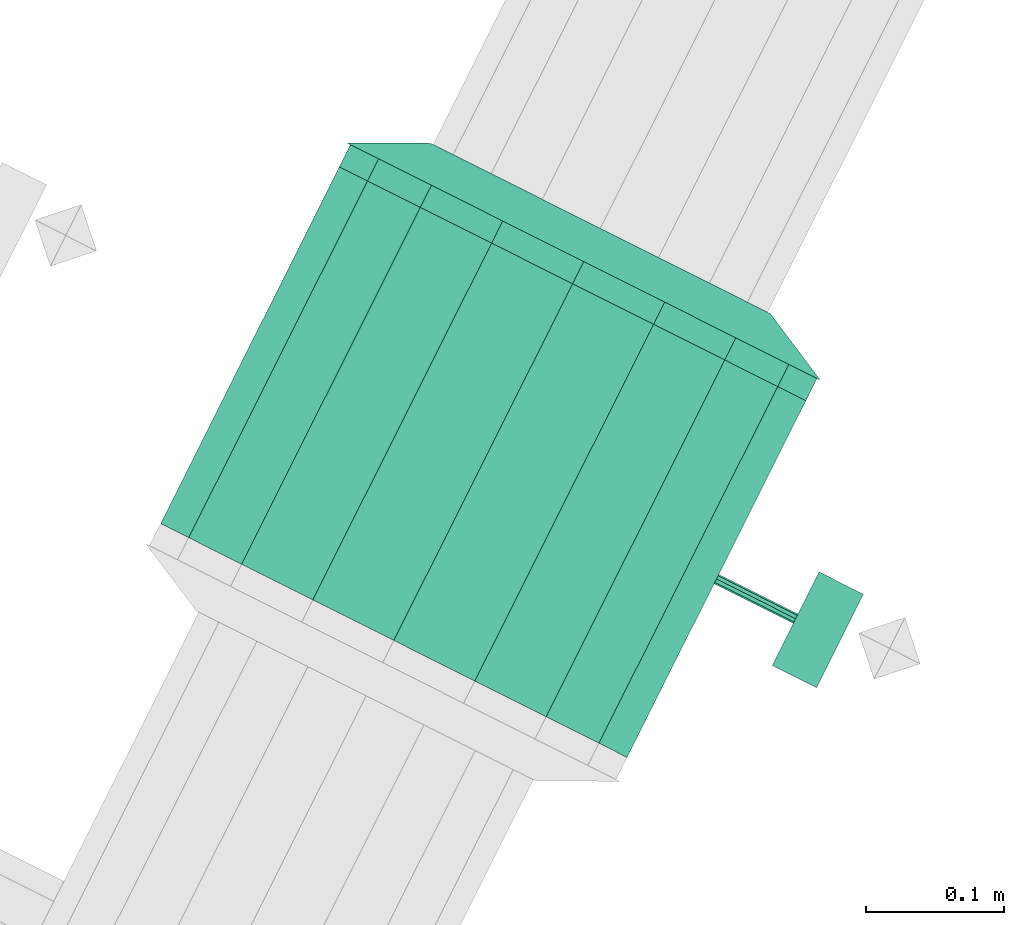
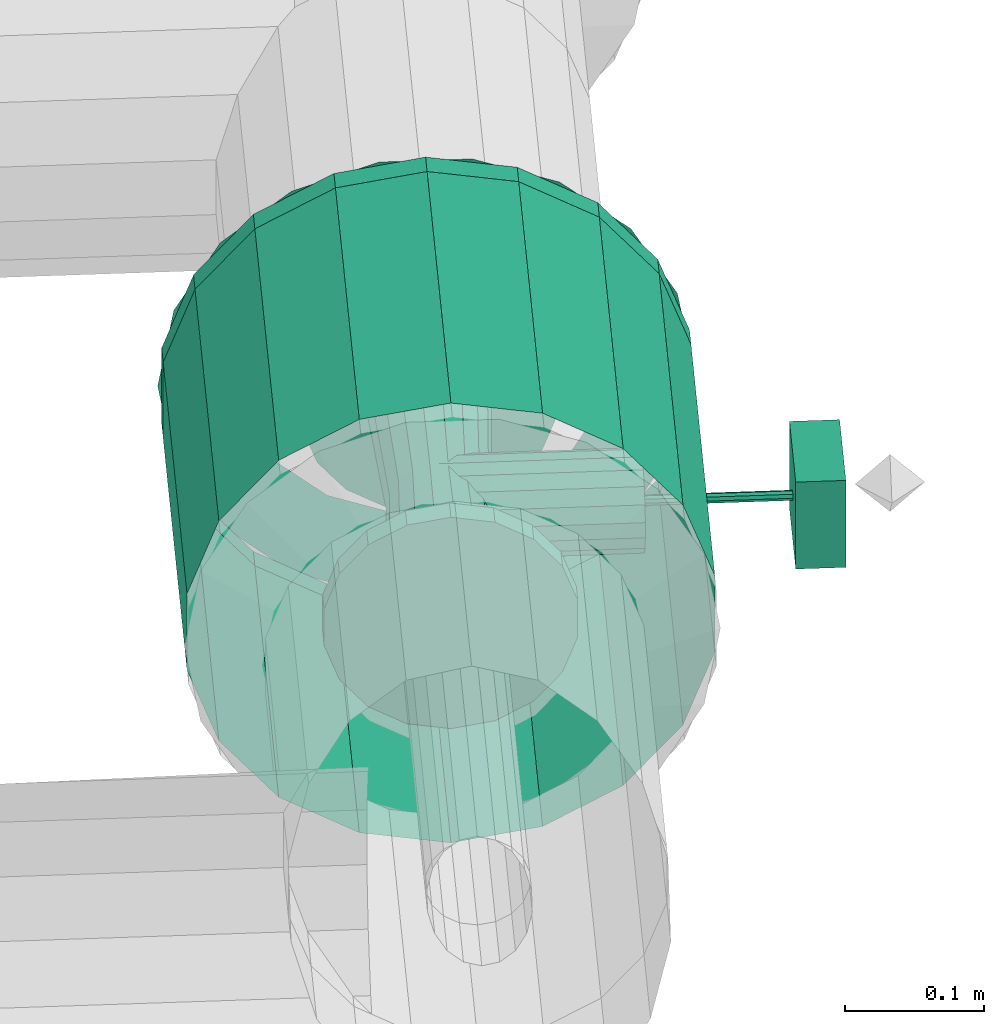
# One storey, part 39 of 152: 1 flow controller, 1 flow fitting.
"""IFC2X3 building model written with IfcOpenShell, lengths in metres."""

from ifc_helpers import new_model, si_unit, derived_unit, direction, frame, origin, place, context, subcontext, project, spatial, face_set, surface_model, source, transform, mapped, material, type_object, type_shapes, element, save


model = new_model("IFC2X3")

# Units and contexts
model_context = context("Model", 3, precision=5.2338327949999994e-05, world=origin(), true_north=direction((0.0, 1.0)))
body_context = subcontext(model_context, "Body", "Model", "MODEL_VIEW")
ifc_project = project(units=[si_unit("LENGTHUNIT", "METRE"), si_unit("AREAUNIT", "SQUARE_METRE"), si_unit("VOLUMEUNIT", "CUBIC_METRE"), si_unit("MASSUNIT", "GRAM", prefix="KILO"), si_unit("PLANEANGLEUNIT", "RADIAN"), derived_unit("THERMALTRANSMITTANCEUNIT", [(si_unit("MASSUNIT", "GRAM", prefix="KILO"), 1), (si_unit("THERMODYNAMICTEMPERATUREUNIT", "KELVIN"), -1), (si_unit("TIMEUNIT", "SECOND"), -3)])], contexts=[model_context])

# Site, building, storey
site_placement = place(None, frame((0.0, 0.0, 0.0), z_axis=(0.0, 0.0, 1.0), x_axis=(0.8939966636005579, -0.4480736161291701, 0.0)))
site = spatial("IfcSite", under=ifc_project, at=site_placement, Name="Default", CompositionType="ELEMENT")
building_placement = place(site_placement, origin())
building = spatial("IfcBuilding", under=site, at=building_placement, CompositionType="ELEMENT")
storey_placement = place(building_placement, frame((0.0, 0.0, 2.7499999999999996)))
storey = spatial("IfcBuildingStorey", under=building, at=storey_placement, Name="1. Obergeschoss", CompositionType="ELEMENT", Elevation=2.7499999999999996)

# Flow controller
ifc_material = material(Name="IfcSurfaceStyle #1741")
distribution_element_type_1 = type_object("IfcDistributionElementType", Name="Ventil:Ventil", material=ifc_material)
shared_shape_1 = source(origin(), body_context, "Body", "SurfaceModel", [
    surface_model("IfcFaceBasedSurfaceModel", [(15.31124256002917, 6.972544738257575, 5.597590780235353), (15.31124256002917, 6.896444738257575, 5.597590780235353), (15.31124256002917, 6.896444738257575, 5.673690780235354), (15.31124256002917, 6.972544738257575, 5.673690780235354), (15.347242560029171, 6.896444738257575, 5.673690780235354), (15.347242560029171, 6.972544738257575, 5.673690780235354), (15.347242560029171, 6.896444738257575, 5.597590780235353), (15.347242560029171, 6.972544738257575, 5.597590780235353), (15.057242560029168, 7.079494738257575, 5.728140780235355), (15.025605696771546, 7.079494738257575, 5.722562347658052), (15.025605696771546, 7.061494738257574, 5.722562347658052), (15.057242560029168, 7.061494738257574, 5.728140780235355), (14.997784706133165, 7.079494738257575, 5.706499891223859), (14.997784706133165, 7.061494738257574, 5.706499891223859), (14.977135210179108, 7.079494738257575, 5.681890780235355), (14.977135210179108, 7.061494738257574, 5.681890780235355), (14.96614784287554, 7.079494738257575, 5.651703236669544), (14.96614784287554, 7.061494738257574, 5.651703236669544), (14.966147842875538, 7.079494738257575, 5.619578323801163), (14.966147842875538, 7.061494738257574, 5.619578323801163), (14.977135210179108, 7.079494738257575, 5.5893907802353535), (14.977135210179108, 7.061494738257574, 5.5893907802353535), (14.997784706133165, 7.079494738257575, 5.564781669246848), (14.997784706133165, 7.061494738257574, 5.564781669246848), (15.025605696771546, 7.079494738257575, 5.548719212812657), (15.025605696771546, 7.061494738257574, 5.548719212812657), (15.057242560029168, 7.079494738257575, 5.543140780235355), (15.057242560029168, 7.061494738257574, 5.543140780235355), (15.088879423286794, 7.079494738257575, 5.548719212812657), (15.088879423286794, 7.061494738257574, 5.548719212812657), (15.116700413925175, 7.079494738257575, 5.564781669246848), (15.116700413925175, 7.061494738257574, 5.564781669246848), (15.13734990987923, 7.079494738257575, 5.5893907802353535), (15.13734990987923, 7.061494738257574, 5.5893907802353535), (15.148337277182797, 7.079494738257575, 5.619578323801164), (15.148337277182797, 7.061494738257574, 5.619578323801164), (15.1483372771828, 7.079494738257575, 5.651703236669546), (15.1483372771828, 7.061494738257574, 5.651703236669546), (15.13734990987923, 7.079494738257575, 5.681890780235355), (15.13734990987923, 7.061494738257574, 5.681890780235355), (15.116700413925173, 7.079494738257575, 5.706499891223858), (15.116700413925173, 7.061494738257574, 5.706499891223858), (15.088879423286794, 7.079494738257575, 5.722562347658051), (15.088879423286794, 7.061494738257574, 5.722562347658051), (15.057242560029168, 7.079494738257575, 5.635640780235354), (15.057242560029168, 7.061494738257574, 5.635640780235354), (15.012242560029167, 7.061494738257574, 5.635640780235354), (15.0149563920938, 7.061494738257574, 5.620249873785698), (15.021487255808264, 6.934494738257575, 5.622626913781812), (15.019192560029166, 6.934494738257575, 5.635640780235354), (15.022770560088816, 7.061494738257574, 5.606715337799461), (15.028094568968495, 6.934494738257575, 5.611182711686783), (15.03474256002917, 7.061494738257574, 5.596669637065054), (15.03821756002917, 6.934494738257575, 5.602688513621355), (15.049428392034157, 7.061494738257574, 5.591324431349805), (15.050635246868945, 6.934494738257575, 5.598168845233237), (15.065056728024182, 7.061494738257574, 5.591324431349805), (15.063849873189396, 6.934494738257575, 5.598168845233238), (15.079742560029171, 7.061494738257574, 5.596669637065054), (15.07626756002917, 6.934494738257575, 5.602688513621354), (15.091714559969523, 7.061494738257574, 5.606715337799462), (15.086390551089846, 6.934494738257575, 5.611182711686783), (15.099528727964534, 7.061494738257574, 5.620249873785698), (15.092997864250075, 6.934494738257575, 5.622626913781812), (15.10224256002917, 7.061494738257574, 5.635640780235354), (15.095292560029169, 6.934494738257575, 5.635640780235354), (15.099528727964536, 7.061494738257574, 5.651031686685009), (15.092997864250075, 6.934494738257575, 5.648654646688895), (15.091714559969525, 7.061494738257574, 5.664566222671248), (15.086390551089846, 6.934494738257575, 5.660098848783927), (15.079742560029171, 7.061494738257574, 5.674611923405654), (15.07626756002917, 6.934494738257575, 5.668593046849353), (15.065056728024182, 7.061494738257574, 5.679957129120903), (15.063849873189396, 6.934494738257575, 5.673112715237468), (15.049428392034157, 7.061494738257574, 5.679957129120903), (15.050635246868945, 6.934494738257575, 5.673112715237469), (15.03474256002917, 7.061494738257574, 5.674611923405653), (15.03821756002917, 6.934494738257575, 5.668593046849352), (15.022770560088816, 7.061494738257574, 5.664566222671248), (15.028094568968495, 6.934494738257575, 5.660098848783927), (15.014956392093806, 7.061494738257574, 5.651031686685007), (15.021487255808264, 6.934494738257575, 5.648654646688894), (15.014956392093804, 6.807494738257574, 5.620249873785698), (15.012242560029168, 6.807494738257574, 5.635640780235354), (15.022770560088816, 6.807494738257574, 5.606715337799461), (15.03474256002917, 6.807494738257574, 5.5966696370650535), (15.049428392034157, 6.807494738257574, 5.591324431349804), (15.06505672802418, 6.807494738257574, 5.591324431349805), (15.079742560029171, 6.807494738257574, 5.596669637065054), (15.091714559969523, 6.807494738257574, 5.606715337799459), (15.099528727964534, 6.807494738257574, 5.620249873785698), (15.102242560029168, 6.807494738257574, 5.635640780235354), (15.099528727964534, 6.807494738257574, 5.651031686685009), (15.091714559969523, 6.807494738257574, 5.664566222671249), (15.079742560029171, 6.807494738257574, 5.674611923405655), (15.06505672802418, 6.807494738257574, 5.679957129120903), (15.049428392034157, 6.807494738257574, 5.679957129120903), (15.03474256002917, 6.807494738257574, 5.674611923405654), (15.022770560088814, 6.807494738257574, 5.664566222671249), (15.014956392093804, 6.807494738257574, 5.651031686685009), (15.057242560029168, 6.807494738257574, 5.728140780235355), (15.025605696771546, 6.807494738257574, 5.722562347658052), (15.025605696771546, 6.7894947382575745, 5.722562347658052), (15.057242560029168, 6.7894947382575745, 5.728140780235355), (14.997784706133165, 6.807494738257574, 5.706499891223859), (14.997784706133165, 6.7894947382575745, 5.706499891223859), (14.977135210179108, 6.807494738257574, 5.681890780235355), (14.977135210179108, 6.7894947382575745, 5.681890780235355), (14.96614784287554, 6.807494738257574, 5.651703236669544), (14.96614784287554, 6.7894947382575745, 5.651703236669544), (14.966147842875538, 6.807494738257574, 5.619578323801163), (14.966147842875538, 6.7894947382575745, 5.619578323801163), (14.977135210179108, 6.807494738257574, 5.5893907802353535), (14.977135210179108, 6.7894947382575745, 5.5893907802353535), (14.997784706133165, 6.807494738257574, 5.564781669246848), (14.997784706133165, 6.7894947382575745, 5.564781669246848), (15.025605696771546, 6.807494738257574, 5.548719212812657), (15.025605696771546, 6.7894947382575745, 5.548719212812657), (15.057242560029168, 6.807494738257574, 5.543140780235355), (15.057242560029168, 6.7894947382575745, 5.543140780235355), (15.088879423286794, 6.807494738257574, 5.548719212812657), (15.088879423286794, 6.7894947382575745, 5.548719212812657), (15.116700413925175, 6.807494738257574, 5.564781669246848), (15.116700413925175, 6.7894947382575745, 5.564781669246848), (15.13734990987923, 6.807494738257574, 5.5893907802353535), (15.13734990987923, 6.7894947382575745, 5.5893907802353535), (15.148337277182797, 6.807494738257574, 5.619578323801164), (15.148337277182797, 6.7894947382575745, 5.619578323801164), (15.1483372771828, 6.807494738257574, 5.651703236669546), (15.1483372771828, 6.7894947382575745, 5.651703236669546), (15.13734990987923, 6.807494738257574, 5.681890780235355), (15.13734990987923, 6.7894947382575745, 5.681890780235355), (15.116700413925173, 6.807494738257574, 5.706499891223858), (15.116700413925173, 6.7894947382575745, 5.706499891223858), (15.088879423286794, 6.807494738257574, 5.722562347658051), (15.088879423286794, 6.7894947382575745, 5.722562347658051), (15.057242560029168, 6.807494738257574, 5.635640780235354), (15.057242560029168, 6.7894947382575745, 5.635640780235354), (15.057242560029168, 6.934494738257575, 5.673690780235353), (15.057242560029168, 6.921480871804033, 5.671396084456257), (15.203267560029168, 6.921480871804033, 5.671396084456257), (15.203267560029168, 6.934494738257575, 5.673690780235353), (15.057242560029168, 6.910036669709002, 5.66478877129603), (15.203267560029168, 6.910036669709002, 5.66478877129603), (15.057242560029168, 6.901542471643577, 5.654665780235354), (15.203267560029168, 6.901542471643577, 5.654665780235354), (15.057242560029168, 6.897022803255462, 5.6422480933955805), (15.203267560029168, 6.897022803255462, 5.6422480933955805), (15.057242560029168, 6.897022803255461, 5.629033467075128), (15.203267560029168, 6.897022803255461, 5.629033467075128), (15.057242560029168, 6.901542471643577, 5.616615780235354), (15.203267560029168, 6.901542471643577, 5.616615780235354), (15.057242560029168, 6.910036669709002, 5.606492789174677), (15.203267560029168, 6.910036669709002, 5.606492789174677), (15.057242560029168, 6.921480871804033, 5.5998854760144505), (15.203267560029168, 6.921480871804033, 5.5998854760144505), (15.057242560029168, 6.934494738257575, 5.597590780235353), (15.203267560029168, 6.934494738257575, 5.597590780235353), (15.057242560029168, 6.947508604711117, 5.5998854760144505), (15.203267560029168, 6.947508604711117, 5.5998854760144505), (15.057242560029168, 6.958952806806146, 5.606492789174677), (15.203267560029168, 6.958952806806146, 5.606492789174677), (15.057242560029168, 6.967447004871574, 5.616615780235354), (15.203267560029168, 6.967447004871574, 5.616615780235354), (15.057242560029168, 6.971966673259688, 5.629033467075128), (15.203267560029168, 6.971966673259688, 5.629033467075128), (15.057242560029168, 6.971966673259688, 5.6422480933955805), (15.203267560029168, 6.971966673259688, 5.6422480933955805), (15.057242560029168, 6.967447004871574, 5.654665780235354), (15.203267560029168, 6.967447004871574, 5.654665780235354), (15.057242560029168, 6.958952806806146, 5.66478877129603), (15.203267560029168, 6.958952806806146, 5.66478877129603), (15.057242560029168, 6.947508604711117, 5.671396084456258), (15.203267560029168, 6.947508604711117, 5.671396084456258), (15.057242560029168, 6.934494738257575, 5.635640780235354), (15.203267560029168, 6.934494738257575, 5.635640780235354), (15.203267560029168, 6.934494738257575, 5.639445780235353), (15.203267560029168, 6.9318041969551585, 5.638331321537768), (15.31124256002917, 6.9318041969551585, 5.638331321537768), (15.31124256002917, 6.934494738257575, 5.639445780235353), (15.203267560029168, 6.930689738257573, 5.635640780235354), (15.31124256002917, 6.930689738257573, 5.635640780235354), (15.203267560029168, 6.9318041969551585, 5.63295023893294), (15.31124256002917, 6.9318041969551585, 5.63295023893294), (15.203267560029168, 6.934494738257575, 5.631835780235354), (15.31124256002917, 6.934494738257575, 5.631835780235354), (15.203267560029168, 6.937185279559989, 5.63295023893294), (15.31124256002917, 6.937185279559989, 5.63295023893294), (15.203267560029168, 6.938299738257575, 5.635640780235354), (15.31124256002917, 6.938299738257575, 5.635640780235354), (15.203267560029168, 6.937185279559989, 5.638331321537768), (15.31124256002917, 6.937185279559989, 5.638331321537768), (15.311242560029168, 6.934494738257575, 5.635640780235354), (15.057242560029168, 7.079494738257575, 5.828140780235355), (14.991403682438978, 7.079494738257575, 5.816531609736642), (14.991403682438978, 6.7894947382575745, 5.816531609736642), (15.057242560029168, 6.7894947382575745, 5.828140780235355), (14.93350594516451, 7.079494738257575, 5.783104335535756), (14.93350594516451, 6.7894947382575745, 5.783104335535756), (14.890532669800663, 7.079494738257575, 5.731890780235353), (14.890532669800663, 6.7894947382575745, 5.731890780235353), (14.867667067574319, 7.079494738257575, 5.669068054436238), (14.867667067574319, 6.7894947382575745, 5.669068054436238), (14.86766706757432, 7.079494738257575, 5.602213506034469), (14.86766706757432, 6.7894947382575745, 5.602213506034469), (14.890532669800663, 7.079494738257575, 5.539390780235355), (14.890532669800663, 6.7894947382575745, 5.539390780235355), (14.93350594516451, 7.079494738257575, 5.488177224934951), (14.93350594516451, 6.7894947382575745, 5.488177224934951), (14.991403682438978, 7.079494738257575, 5.454749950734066), (14.991403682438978, 6.7894947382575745, 5.454749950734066), (15.057242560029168, 7.079494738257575, 5.443140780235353), (15.057242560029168, 6.7894947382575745, 5.443140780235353), (15.12308143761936, 7.079494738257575, 5.454749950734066), (15.12308143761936, 6.7894947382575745, 5.454749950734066), (15.18097917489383, 7.079494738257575, 5.488177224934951), (15.18097917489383, 6.7894947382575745, 5.488177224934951), (15.223952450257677, 7.079494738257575, 5.539390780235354), (15.223952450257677, 6.7894947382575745, 5.539390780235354), (15.24681805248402, 7.079494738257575, 5.602213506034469), (15.24681805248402, 6.7894947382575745, 5.602213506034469), (15.24681805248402, 7.079494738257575, 5.669068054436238), (15.24681805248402, 6.7894947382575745, 5.669068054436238), (15.223952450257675, 7.079494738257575, 5.731890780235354), (15.223952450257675, 6.7894947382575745, 5.731890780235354), (15.18097917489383, 7.079494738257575, 5.783104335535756), (15.18097917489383, 6.7894947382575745, 5.783104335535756), (15.12308143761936, 7.079494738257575, 5.816531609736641), (15.12308143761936, 6.7894947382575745, 5.816531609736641)], [face_set([[[0, 1, 2, 3]], [[3, 2, 4, 5]], [[5, 4, 6, 7]], [[7, 6, 1, 0]], [[0, 3, 5, 7]], [[6, 4, 2, 1]], [[8, 9, 10, 11]], [[9, 12, 13, 10]], [[12, 14, 15, 13]], [[14, 16, 17, 15]], [[16, 18, 19, 17]], [[18, 20, 21, 19]], [[20, 22, 23, 21]], [[22, 24, 25, 23]], [[24, 26, 27, 25]], [[26, 28, 29, 27]], [[28, 30, 31, 29]], [[30, 32, 33, 31]], [[32, 34, 35, 33]], [[34, 36, 37, 35]], [[36, 38, 39, 37]], [[38, 40, 41, 39]], [[40, 42, 43, 41]], [[42, 8, 11, 43]], [[44, 9, 8]], [[44, 12, 9]], [[44, 14, 12]], [[44, 16, 14]], [[44, 18, 16]], [[44, 20, 18]], [[44, 22, 20]], [[44, 24, 22]], [[44, 26, 24]], [[44, 28, 26]], [[44, 30, 28]], [[44, 32, 30]], [[44, 34, 32]], [[44, 36, 34]], [[44, 38, 36]], [[44, 40, 38]], [[44, 42, 40]], [[44, 8, 42]], [[45, 43, 11]], [[45, 41, 43]], [[45, 39, 41]], [[45, 37, 39]], [[45, 35, 37]], [[45, 33, 35]], [[45, 31, 33]], [[45, 29, 31]], [[45, 27, 29]], [[45, 25, 27]], [[45, 23, 25]], [[45, 21, 23]], [[45, 19, 21]], [[45, 17, 19]], [[45, 15, 17]], [[45, 13, 15]], [[45, 10, 13]], [[45, 11, 10]], [[46, 47, 48, 49]], [[47, 50, 51, 48]], [[50, 52, 53, 51]], [[52, 54, 55, 53]], [[54, 56, 57, 55]], [[56, 58, 59, 57]], [[58, 60, 61, 59]], [[60, 62, 63, 61]], [[62, 64, 65, 63]], [[64, 66, 67, 65]], [[66, 68, 69, 67]], [[68, 70, 71, 69]], [[70, 72, 73, 71]], [[72, 74, 75, 73]], [[74, 76, 77, 75]], [[76, 78, 79, 77]], [[78, 80, 81, 79]], [[80, 46, 49, 81]], [[49, 48, 82, 83]], [[48, 51, 84, 82]], [[51, 53, 85, 84]], [[53, 55, 86, 85]], [[55, 57, 87, 86]], [[57, 59, 88, 87]], [[59, 61, 89, 88]], [[61, 63, 90, 89]], [[63, 65, 91, 90]], [[65, 67, 92, 91]], [[67, 69, 93, 92]], [[69, 71, 94, 93]], [[71, 73, 95, 94]], [[73, 75, 96, 95]], [[75, 77, 97, 96]], [[77, 79, 98, 97]], [[79, 81, 99, 98]], [[81, 49, 83, 99]], [[100, 101, 102, 103]], [[101, 104, 105, 102]], [[104, 106, 107, 105]], [[106, 108, 109, 107]], [[108, 110, 111, 109]], [[110, 112, 113, 111]], [[112, 114, 115, 113]], [[114, 116, 117, 115]], [[116, 118, 119, 117]], [[118, 120, 121, 119]], [[120, 122, 123, 121]], [[122, 124, 125, 123]], [[124, 126, 127, 125]], [[126, 128, 129, 127]], [[128, 130, 131, 129]], [[130, 132, 133, 131]], [[132, 134, 135, 133]], [[134, 100, 103, 135]], [[136, 101, 100]], [[136, 104, 101]], [[136, 106, 104]], [[136, 108, 106]], [[136, 110, 108]], [[136, 112, 110]], [[136, 114, 112]], [[136, 116, 114]], [[136, 118, 116]], [[136, 120, 118]], [[136, 122, 120]], [[136, 124, 122]], [[136, 126, 124]], [[136, 128, 126]], [[136, 130, 128]], [[136, 132, 130]], [[136, 134, 132]], [[136, 100, 134]], [[137, 135, 103]], [[137, 133, 135]], [[137, 131, 133]], [[137, 129, 131]], [[137, 127, 129]], [[137, 125, 127]], [[137, 123, 125]], [[137, 121, 123]], [[137, 119, 121]], [[137, 117, 119]], [[137, 115, 117]], [[137, 113, 115]], [[137, 111, 113]], [[137, 109, 111]], [[137, 107, 109]], [[137, 105, 107]], [[137, 102, 105]], [[137, 103, 102]], [[138, 139, 140, 141]], [[139, 142, 143, 140]], [[142, 144, 145, 143]], [[144, 146, 147, 145]], [[146, 148, 149, 147]], [[148, 150, 151, 149]], [[150, 152, 153, 151]], [[152, 154, 155, 153]], [[154, 156, 157, 155]], [[156, 158, 159, 157]], [[158, 160, 161, 159]], [[160, 162, 163, 161]], [[162, 164, 165, 163]], [[164, 166, 167, 165]], [[166, 168, 169, 167]], [[168, 170, 171, 169]], [[170, 172, 173, 171]], [[172, 138, 141, 173]], [[174, 139, 138]], [[174, 142, 139]], [[174, 144, 142]], [[174, 146, 144]], [[174, 148, 146]], [[174, 150, 148]], [[174, 152, 150]], [[174, 154, 152]], [[174, 156, 154]], [[174, 158, 156]], [[174, 160, 158]], [[174, 162, 160]], [[174, 164, 162]], [[174, 166, 164]], [[174, 168, 166]], [[174, 170, 168]], [[174, 172, 170]], [[174, 138, 172]], [[175, 173, 141]], [[175, 171, 173]], [[175, 169, 171]], [[175, 167, 169]], [[175, 165, 167]], [[175, 163, 165]], [[175, 161, 163]], [[175, 159, 161]], [[175, 157, 159]], [[175, 155, 157]], [[175, 153, 155]], [[175, 151, 153]], [[175, 149, 151]], [[175, 147, 149]], [[175, 145, 147]], [[175, 143, 145]], [[175, 140, 143]], [[175, 141, 140]], [[176, 177, 178, 179]], [[177, 180, 181, 178]], [[180, 182, 183, 181]], [[182, 184, 185, 183]], [[184, 186, 187, 185]], [[186, 188, 189, 187]], [[188, 190, 191, 189]], [[190, 176, 179, 191]], [[192, 191, 179]], [[192, 189, 191]], [[192, 187, 189]], [[192, 185, 187]], [[192, 183, 185]], [[192, 181, 183]], [[192, 178, 181]], [[192, 179, 178]], [[193, 194, 195, 196]], [[194, 197, 198, 195]], [[197, 199, 200, 198]], [[199, 201, 202, 200]], [[201, 203, 204, 202]], [[203, 205, 206, 204]], [[205, 207, 208, 206]], [[207, 209, 210, 208]], [[209, 211, 212, 210]], [[211, 213, 214, 212]], [[213, 215, 216, 214]], [[215, 217, 218, 216]], [[217, 219, 220, 218]], [[219, 221, 222, 220]], [[221, 223, 224, 222]], [[223, 225, 226, 224]], [[225, 227, 228, 226]], [[227, 193, 196, 228]]])]),
])
type_shapes(distribution_element_type_1, [shared_shape_1])
flow_controller_placement = place(storey_placement, frame((0.0, 0.0, -2.7499999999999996)))
element("IfcFlowController", 1, at=flow_controller_placement, inside=storey, type_object=distribution_element_type_1, material=ifc_material, Name="Ventil", ObjectType="Ventil", context=body_context, shape_type="MappedRepresentation", body=[
    mapped(shared_shape_1, transform((0.0, 0.0, 0.0), scale=1.0)),
])

# Flow fitting
distribution_element_type_2 = type_object("IfcDistributionElementType", Name="Flansch 256500:Flansch 256500", material=ifc_material)
shared_shape_2 = source(origin(), body_context, "Body", "SurfaceModel", [
    surface_model("IfcFaceBasedSurfaceModel", [(15.095292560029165, 7.124494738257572, 5.635640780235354), (15.092997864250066, 7.124494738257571, 5.648654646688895), (15.099528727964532, 7.0974947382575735, 5.65103168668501), (15.102242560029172, 7.097494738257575, 5.635640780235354), (15.086390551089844, 7.124494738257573, 5.6600988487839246), (15.091714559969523, 7.097494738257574, 5.664566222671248), (15.076267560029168, 7.124494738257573, 5.668593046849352), (15.079742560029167, 7.0974947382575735, 5.674611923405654), (15.063849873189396, 7.1244947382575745, 5.673112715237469), (15.065056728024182, 7.097494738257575, 5.679957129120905), (15.050635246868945, 7.124494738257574, 5.673112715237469), (15.049428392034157, 7.097494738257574, 5.679957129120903), (15.03821756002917, 7.124494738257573, 5.668593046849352), (15.034742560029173, 7.097494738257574, 5.674611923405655), (15.028094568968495, 7.124494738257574, 5.660098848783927), (15.022770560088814, 7.097494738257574, 5.664566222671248), (15.021487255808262, 7.124494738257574, 5.648654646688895), (15.0149563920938, 7.097494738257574, 5.65103168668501), (15.019192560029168, 7.124494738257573, 5.635640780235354), (15.01224256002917, 7.097494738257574, 5.635640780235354), (15.021487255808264, 7.124494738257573, 5.6226269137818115), (15.014956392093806, 7.097494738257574, 5.620249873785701), (15.028094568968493, 7.124494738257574, 5.611182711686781), (15.022770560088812, 7.097494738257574, 5.606715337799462), (15.038217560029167, 7.1244947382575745, 5.602688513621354), (15.03474256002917, 7.097494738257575, 5.5966696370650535), (15.050635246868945, 7.124494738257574, 5.59816884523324), (15.049428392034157, 7.097494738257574, 5.591324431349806), (15.063849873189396, 7.124494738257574, 5.598168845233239), (15.06505672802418, 7.097494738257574, 5.591324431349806), (15.07626756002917, 7.124494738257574, 5.602688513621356), (15.079742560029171, 7.097494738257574, 5.596669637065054), (15.086390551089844, 7.124494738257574, 5.61118271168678), (15.091714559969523, 7.097494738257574, 5.606715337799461), (15.092997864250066, 7.124494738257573, 5.622626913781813), (15.099528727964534, 7.097494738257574, 5.6202498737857), (15.057242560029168, 7.097494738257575, 5.543140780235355), (15.088879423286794, 7.097494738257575, 5.548719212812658), (15.088879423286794, 7.079494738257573, 5.548719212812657), (15.057242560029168, 7.079494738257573, 5.543140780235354), (15.116700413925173, 7.0974947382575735, 5.564781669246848), (15.116700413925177, 7.079494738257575, 5.56478166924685), (15.137349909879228, 7.0974947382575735, 5.589390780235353), (15.137349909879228, 7.079494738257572, 5.589390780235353), (15.148337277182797, 7.097494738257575, 5.619578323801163), (15.148337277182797, 7.079494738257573, 5.619578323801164), (15.1483372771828, 7.0974947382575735, 5.651703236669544), (15.148337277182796, 7.079494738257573, 5.651703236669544), (15.137349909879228, 7.0974947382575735, 5.681890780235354), (15.137349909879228, 7.079494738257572, 5.681890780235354), (15.11670041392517, 7.0974947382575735, 5.706499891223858), (15.116700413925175, 7.079494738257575, 5.706499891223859), (15.088879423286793, 7.097494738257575, 5.722562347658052), (15.088879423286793, 7.079494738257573, 5.722562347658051), (15.057242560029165, 7.097494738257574, 5.7281407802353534), (15.057242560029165, 7.079494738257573, 5.7281407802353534), (15.02560569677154, 7.0974947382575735, 5.722562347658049), (15.025605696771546, 7.079494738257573, 5.7225623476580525), (14.997784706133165, 7.0974947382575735, 5.706499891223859), (14.997784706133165, 7.079494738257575, 5.70649989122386), (14.977135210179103, 7.0974947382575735, 5.681890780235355), (14.977135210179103, 7.079494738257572, 5.681890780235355), (14.966147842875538, 7.0974947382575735, 5.651703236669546), (14.966147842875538, 7.0794947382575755, 5.651703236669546), (14.96614784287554, 7.097494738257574, 5.619578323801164), (14.966147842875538, 7.079494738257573, 5.619578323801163), (14.977135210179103, 7.0974947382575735, 5.589390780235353), (14.977135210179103, 7.079494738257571, 5.589390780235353), (14.997784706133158, 7.0974947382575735, 5.564781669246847), (14.997784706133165, 7.079494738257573, 5.564781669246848), (15.025605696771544, 7.0974947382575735, 5.548719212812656), (15.025605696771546, 7.079494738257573, 5.548719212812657), (15.057242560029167, 7.0974947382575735, 5.635640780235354), (15.195292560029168, 7.124494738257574, 5.635640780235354), (15.186967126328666, 7.124494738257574, 5.6828566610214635), (15.238133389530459, 7.097494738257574, 5.701479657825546), (15.249742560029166, 7.097494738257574, 5.635640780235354), (15.16299499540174, 7.124494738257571, 5.7243776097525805), (15.20470611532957, 7.097494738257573, 5.759377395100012), (15.126267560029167, 7.124494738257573, 5.755195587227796), (15.153492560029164, 7.097494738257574, 5.8023506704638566), (15.081214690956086, 7.1244947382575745, 5.771593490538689), (15.090669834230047, 7.097494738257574, 5.825216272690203), (15.033270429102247, 7.124494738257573, 5.771593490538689), (15.023815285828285, 7.0974947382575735, 5.825216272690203), (14.988217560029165, 7.124494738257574, 5.755195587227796), (14.960992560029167, 7.097494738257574, 5.802350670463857), (14.951490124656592, 7.124494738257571, 5.724377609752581), (14.909779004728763, 7.0974947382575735, 5.759377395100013), (14.927517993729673, 7.124494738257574, 5.6828566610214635), (14.876351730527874, 7.097494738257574, 5.701479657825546), (14.91919256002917, 7.124494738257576, 5.635640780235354), (14.86474256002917, 7.097494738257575, 5.635640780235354), (14.927517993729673, 7.124494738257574, 5.588424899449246), (14.87635173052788, 7.0974947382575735, 5.569801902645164), (14.951490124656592, 7.124494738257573, 5.546903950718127), (14.90977900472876, 7.097494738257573, 5.511904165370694), (14.988217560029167, 7.124494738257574, 5.5160859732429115), (14.960992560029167, 7.097494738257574, 5.468930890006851), (15.033270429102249, 7.124494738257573, 5.499688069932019), (15.023815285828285, 7.0974947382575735, 5.446065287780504), (15.08121469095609, 7.124494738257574, 5.499688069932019), (15.090669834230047, 7.0974947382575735, 5.446065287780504), (15.126267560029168, 7.124494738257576, 5.5160859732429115), (15.153492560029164, 7.097494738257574, 5.468930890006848), (15.16299499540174, 7.124494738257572, 5.546903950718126), (15.204706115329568, 7.0974947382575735, 5.511904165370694), (15.186967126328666, 7.124494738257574, 5.588424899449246), (15.238133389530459, 7.097494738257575, 5.569801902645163), (15.057242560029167, 7.0974947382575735, 5.443140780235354), (15.12308143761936, 7.097494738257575, 5.454749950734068), (15.12308143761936, 7.079494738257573, 5.454749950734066), (15.057242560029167, 7.079494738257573, 5.443140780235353), (15.180979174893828, 7.0974947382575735, 5.488177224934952), (15.18097917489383, 7.079494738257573, 5.488177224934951), (15.223952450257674, 7.097494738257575, 5.539390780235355), (15.223952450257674, 7.079494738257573, 5.539390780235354), (15.246818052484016, 7.0974947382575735, 5.602213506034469), (15.246818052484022, 7.079494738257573, 5.602213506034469), (15.24681805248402, 7.0974947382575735, 5.669068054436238), (15.246818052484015, 7.079494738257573, 5.669068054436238), (15.22395245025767, 7.0974947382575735, 5.731890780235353), (15.22395245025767, 7.079494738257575, 5.731890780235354), (15.180979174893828, 7.097494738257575, 5.783104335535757), (15.180979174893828, 7.079494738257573, 5.783104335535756), (15.12308143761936, 7.0974947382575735, 5.816531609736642), (15.12308143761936, 7.079494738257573, 5.816531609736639), (15.057242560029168, 7.097494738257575, 5.828140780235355), (15.057242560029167, 7.079494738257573, 5.828140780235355), (14.991403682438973, 7.0974947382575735, 5.816531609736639), (14.991403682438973, 7.079494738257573, 5.816531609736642), (14.933505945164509, 7.0974947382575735, 5.783104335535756), (14.933505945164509, 7.079494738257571, 5.783104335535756), (14.890532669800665, 7.097494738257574, 5.731890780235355), (14.890532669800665, 7.079494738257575, 5.731890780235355), (14.86766706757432, 7.097494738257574, 5.669068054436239), (14.86766706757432, 7.079494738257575, 5.669068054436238), (14.86766706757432, 7.097494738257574, 5.602213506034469), (14.86766706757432, 7.079494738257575, 5.602213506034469), (14.890532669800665, 7.097494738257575, 5.539390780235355), (14.890532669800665, 7.079494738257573, 5.5393907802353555), (14.93350594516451, 7.097494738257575, 5.488177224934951), (14.93350594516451, 7.079494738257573, 5.488177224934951), (14.991403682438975, 7.097494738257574, 5.454749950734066), (14.991403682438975, 7.079494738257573, 5.454749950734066)], [face_set([[[0, 1, 2, 3]], [[1, 4, 5, 2]], [[4, 6, 7, 5]], [[6, 8, 9, 7]], [[8, 10, 11, 9]], [[10, 12, 13, 11]], [[12, 14, 15, 13]], [[14, 16, 17, 15]], [[16, 18, 19, 17]], [[18, 20, 21, 19]], [[20, 22, 23, 21]], [[22, 24, 25, 23]], [[24, 26, 27, 25]], [[26, 28, 29, 27]], [[28, 30, 31, 29]], [[30, 32, 33, 31]], [[32, 34, 35, 33]], [[34, 0, 3, 35]], [[36, 37, 38, 39]], [[37, 40, 41, 38]], [[40, 42, 43, 41]], [[42, 44, 45, 43]], [[44, 46, 47, 45]], [[46, 48, 49, 47]], [[48, 50, 51, 49]], [[50, 52, 53, 51]], [[52, 54, 55, 53]], [[54, 56, 57, 55]], [[56, 58, 59, 57]], [[58, 60, 61, 59]], [[60, 62, 63, 61]], [[62, 64, 65, 63]], [[64, 66, 67, 65]], [[66, 68, 69, 67]], [[68, 70, 71, 69]], [[70, 36, 39, 71]], [[72, 37, 36]], [[72, 40, 37]], [[72, 42, 40]], [[72, 44, 42]], [[72, 46, 44]], [[72, 48, 46]], [[72, 50, 48]], [[72, 52, 50]], [[72, 54, 52]], [[72, 56, 54]], [[72, 58, 56]], [[72, 60, 58]], [[72, 62, 60]], [[72, 64, 62]], [[72, 66, 64]], [[72, 68, 66]], [[72, 70, 68]], [[72, 36, 70]], [[73, 74, 75, 76]], [[74, 77, 78, 75]], [[77, 79, 80, 78]], [[79, 81, 82, 80]], [[81, 83, 84, 82]], [[83, 85, 86, 84]], [[85, 87, 88, 86]], [[87, 89, 90, 88]], [[89, 91, 92, 90]], [[91, 93, 94, 92]], [[93, 95, 96, 94]], [[95, 97, 98, 96]], [[97, 99, 100, 98]], [[99, 101, 102, 100]], [[101, 103, 104, 102]], [[103, 105, 106, 104]], [[105, 107, 108, 106]], [[107, 73, 76, 108]], [[109, 110, 111, 112]], [[110, 113, 114, 111]], [[113, 115, 116, 114]], [[115, 117, 118, 116]], [[117, 119, 120, 118]], [[119, 121, 122, 120]], [[121, 123, 124, 122]], [[123, 125, 126, 124]], [[125, 127, 128, 126]], [[127, 129, 130, 128]], [[129, 131, 132, 130]], [[131, 133, 134, 132]], [[133, 135, 136, 134]], [[135, 137, 138, 136]], [[137, 139, 140, 138]], [[139, 141, 142, 140]], [[141, 143, 144, 142]], [[143, 109, 112, 144]]])]),
])
type_shapes(distribution_element_type_2, [shared_shape_2])
flow_fitting_placement = place(storey_placement, frame((0.0, 0.0, -2.7499999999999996)))
element("IfcFlowFitting", 2, at=flow_fitting_placement, inside=storey, type_object=distribution_element_type_2, material=ifc_material, Name="Flansch", ObjectType="Flansch", context=body_context, shape_type="MappedRepresentation", body=[
    mapped(shared_shape_2, transform((0.0, 0.0, 0.0), scale=1.0)),
])

save(model, "model.ifc")
